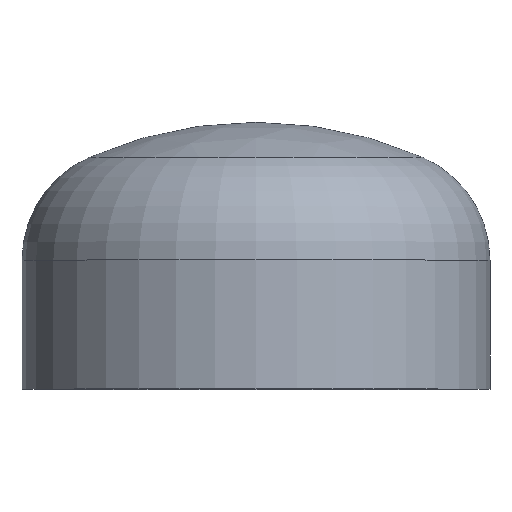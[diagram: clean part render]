
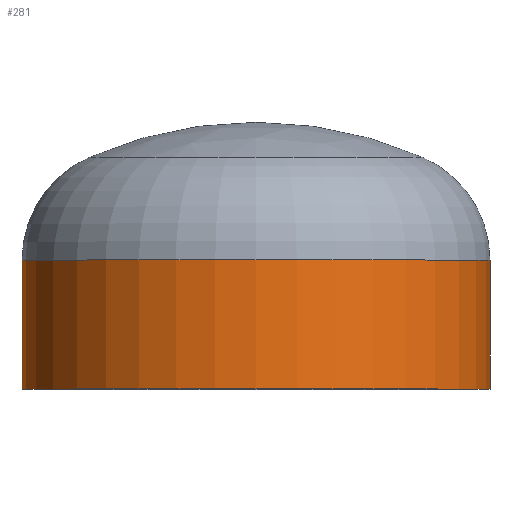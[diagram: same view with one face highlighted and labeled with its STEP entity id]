
A CAD part, top view. The second image highlights one B-rep face of the part: STEP entity #281.
In plain terms, the highlighted cylindrical face has radius 254 mm (diameter 508 mm), a partial arc.
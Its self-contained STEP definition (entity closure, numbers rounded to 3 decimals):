
#3 = CYLINDRICAL_SURFACE ( 'NONE', #54, 254. ) ;
#18 = EDGE_CURVE ( 'NONE', #84, #120, #358, .T. ) ;
#21 = FACE_OUTER_BOUND ( 'NONE', #124, .T. ) ;
#49 = EDGE_CURVE ( 'NONE', #110, #84, #406, .T. ) ;
#54 = AXIS2_PLACEMENT_3D ( 'NONE', #141, #235, #310 ) ;
#84 = VERTEX_POINT ( 'NONE', #301 ) ;
#88 = ORIENTED_EDGE ( 'NONE', *, *, #18, .F. ) ;
#110 = VERTEX_POINT ( 'NONE', #187 ) ;
#120 = VERTEX_POINT ( 'NONE', #170 ) ;
#124 = EDGE_LOOP ( 'NONE', ( #137, #133, #88, #158 ) ) ;
#127 = VERTEX_POINT ( 'NONE', #169 ) ;
#133 = ORIENTED_EDGE ( 'NONE', *, *, #302, .T. ) ;
#137 = ORIENTED_EDGE ( 'NONE', *, *, #268, .T. ) ;
#141 = CARTESIAN_POINT ( 'NONE',  ( 0., 0., 0. ) ) ;
#142 = DIRECTION ( 'NONE',  ( 0., -1., 0. ) ) ;
#158 = ORIENTED_EDGE ( 'NONE', *, *, #49, .F. ) ;
#160 = CIRCLE ( 'NONE', #365, 254. ) ;
#169 = CARTESIAN_POINT ( 'NONE',  ( -254., 140., 0. ) ) ;
#170 = CARTESIAN_POINT ( 'NONE',  ( -254., 0., 0. ) ) ;
#187 = CARTESIAN_POINT ( 'NONE',  ( 254., 140., 0. ) ) ;
#199 = DIRECTION ( 'NONE',  ( 0., -1., 0. ) ) ;
#202 = CARTESIAN_POINT ( 'NONE',  ( 0., 0., 0. ) ) ;
#209 = DIRECTION ( 'NONE',  ( 1., 0., 0. ) ) ;
#235 = DIRECTION ( 'NONE',  ( 0., -1., 0. ) ) ;
#268 = EDGE_CURVE ( 'NONE', #110, #127, #160, .T. ) ;
#281 = ADVANCED_FACE ( 'NONE', ( #21 ), #3, .T. ) ;
#282 = DIRECTION ( 'NONE',  ( 0., -1., 0. ) ) ;
#290 = VECTOR ( 'NONE', #282, 1000. ) ;
#293 = CARTESIAN_POINT ( 'NONE',  ( 0., 140., 0. ) ) ;
#301 = CARTESIAN_POINT ( 'NONE',  ( 254., 0., 0. ) ) ;
#302 = EDGE_CURVE ( 'NONE', #127, #120, #369, .T. ) ;
#310 = DIRECTION ( 'NONE',  ( 1., 0., 0. ) ) ;
#311 = DIRECTION ( 'NONE',  ( 0., -1., 0. ) ) ;
#355 = AXIS2_PLACEMENT_3D ( 'NONE', #202, #199, #209 ) ;
#356 = CARTESIAN_POINT ( 'NONE',  ( 254., 0., 0. ) ) ;
#358 = CIRCLE ( 'NONE', #355, 254. ) ;
#365 = AXIS2_PLACEMENT_3D ( 'NONE', #293, #142, #382 ) ;
#369 = LINE ( 'NONE', #399, #290 ) ;
#382 = DIRECTION ( 'NONE',  ( 1., 0., 0. ) ) ;
#397 = VECTOR ( 'NONE', #311, 1000. ) ;
#399 = CARTESIAN_POINT ( 'NONE',  ( -254., 0., 0. ) ) ;
#406 = LINE ( 'NONE', #356, #397 ) ;
